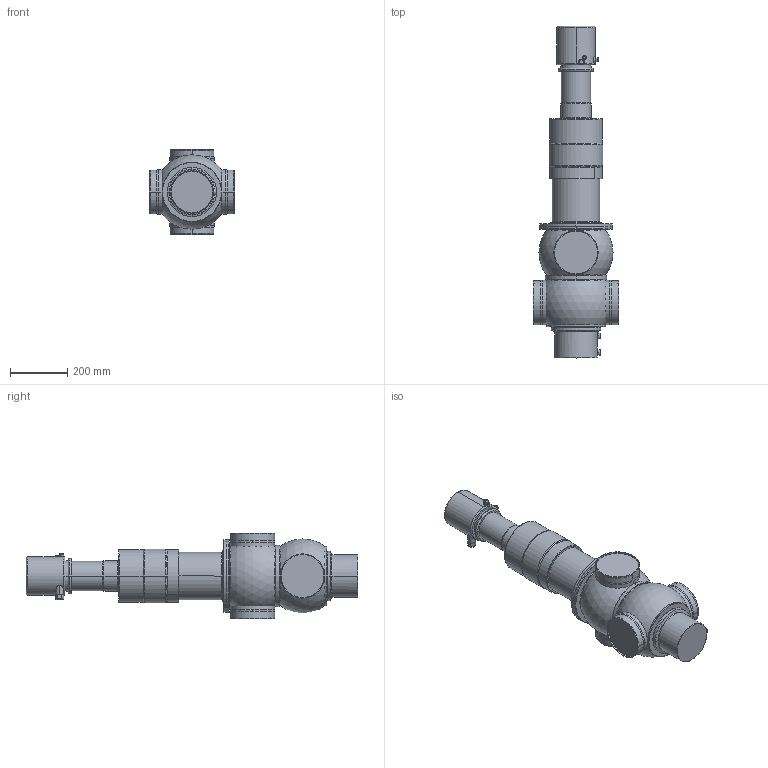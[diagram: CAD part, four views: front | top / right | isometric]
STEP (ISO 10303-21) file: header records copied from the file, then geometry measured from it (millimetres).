
FILE_DESCRIPTION(('Creo Elements/Direct Modeling STEP Export'),'2;1');
FILE_NAME('D44-150_CU4.stp','2019-09-03T15:05:38',(''),(''),'PTC Creo Elements/Direct Modeling STEP processor for AP214 (Solid Model)','PTC Creo Elements/Direct Modeling 19.0B 21-Mar-2015 (C) Parametric Technology GmbH','');
FILE_SCHEMA(('AUTOMOTIVE_DESIGN { 1 0 10303 214 1 1 1 1 }'));
Length unit declared in the file: millimetre
Products named in the file (5): CU43-D4; housing_D44-150; drain_pipe_138; Actuator_D4-D4SL-180_Yoke; D44-150_CU4
Assembly tree (4 placements, depth 2):
  D44-150_CU4
    Actuator_D4-D4SL-180_Yoke
    drain_pipe_138
    housing_D44-150
    CU43-D4
Bounding box: 300 x 1161.85 x 300 mm (x, y, z)
Volume: 33426779.8 mm3; surface area: 1061655.3 mm2
Topology: 4 solids, 4 shells, 307 faces, 729 edges, 464 vertices
Faces by surface type: cylinder 123, plane 69, torus 63, extrusion 33, cone 12, sphere 4, bspline 3
Entity records: 14741 total; most frequent: CARTESIAN_POINT 8103, ORIENTED_EDGE 1458, DIRECTION 1244, EDGE_CURVE 729, AXIS2_PLACEMENT_3D 504, VERTEX_POINT 464, EDGE_LOOP 341, FACE_OUTER_BOUND 307
